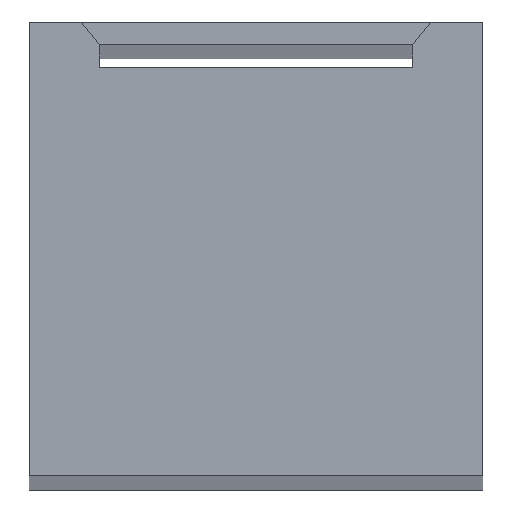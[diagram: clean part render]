
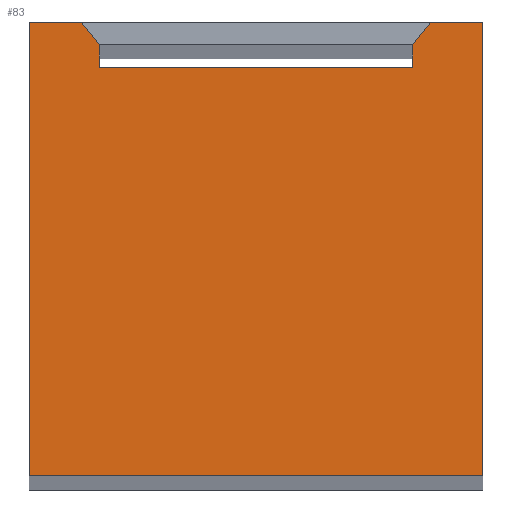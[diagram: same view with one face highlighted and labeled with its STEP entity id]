
A CAD part, top view. The second image highlights one B-rep face of the part: STEP entity #83.
In plain terms, the highlighted planar face has unit normal (0, 0, 1).
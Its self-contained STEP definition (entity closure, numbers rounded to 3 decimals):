
#6 = ORIENTED_EDGE ( 'NONE', *, *, #235, .F. ) ;
#16 = CARTESIAN_POINT ( 'NONE',  ( 6.9, 9., 180. ) ) ;
#17 = EDGE_CURVE ( 'NONE', #477, #407, #507, .T. ) ;
#29 = VECTOR ( 'NONE', #638, 1000. ) ;
#31 = LINE ( 'NONE', #368, #189 ) ;
#41 = CARTESIAN_POINT ( 'NONE',  ( 0., 0., 180. ) ) ;
#51 = LINE ( 'NONE', #437, #530 ) ;
#66 = CARTESIAN_POINT ( 'NONE',  ( 10., -10., 180. ) ) ;
#68 = CARTESIAN_POINT ( 'NONE',  ( 7.7, 10., 180. ) ) ;
#69 = ORIENTED_EDGE ( 'NONE', *, *, #128, .T. ) ;
#71 = EDGE_LOOP ( 'NONE', ( #524, #198, #222, #69, #352, #628, #568, #126, #6, #485 ) ) ;
#74 = DIRECTION ( 'NONE',  ( 1., 0., 0. ) ) ;
#82 = LINE ( 'NONE', #262, #102 ) ;
#83 = ADVANCED_FACE ( 'NONE', ( #260 ), #199, .T. ) ;
#96 = EDGE_CURVE ( 'NONE', #611, #150, #106, .T. ) ;
#102 = VECTOR ( 'NONE', #108, 1000. ) ;
#106 = LINE ( 'NONE', #380, #597 ) ;
#108 = DIRECTION ( 'NONE',  ( -1., 0., 0. ) ) ;
#112 = LINE ( 'NONE', #336, #367 ) ;
#126 = ORIENTED_EDGE ( 'NONE', *, *, #527, .F. ) ;
#128 = EDGE_CURVE ( 'NONE', #407, #179, #112, .T. ) ;
#145 = DIRECTION ( 'NONE',  ( 1., 0., 0. ) ) ;
#147 = VECTOR ( 'NONE', #447, 1000. ) ;
#150 = VERTEX_POINT ( 'NONE', #377 ) ;
#163 = CARTESIAN_POINT ( 'NONE',  ( 7.7, 10., 180. ) ) ;
#179 = VERTEX_POINT ( 'NONE', #474 ) ;
#189 = VECTOR ( 'NONE', #519, 1000. ) ;
#195 = DIRECTION ( 'NONE',  ( 0., 1., 0. ) ) ;
#198 = ORIENTED_EDGE ( 'NONE', *, *, #566, .T. ) ;
#199 = PLANE ( 'NONE',  #551 ) ;
#210 = CARTESIAN_POINT ( 'NONE',  ( -10., 10., 180. ) ) ;
#221 = EDGE_CURVE ( 'NONE', #523, #338, #374, .T. ) ;
#222 = ORIENTED_EDGE ( 'NONE', *, *, #17, .T. ) ;
#225 = DIRECTION ( 'NONE',  ( -0.625, -0.781, 0. ) ) ;
#235 = EDGE_CURVE ( 'NONE', #338, #371, #31, .T. ) ;
#256 = CARTESIAN_POINT ( 'NONE',  ( 6.9, 9., 180. ) ) ;
#260 = FACE_OUTER_BOUND ( 'NONE', #71, .T. ) ;
#262 = CARTESIAN_POINT ( 'NONE',  ( -10., -10., 180. ) ) ;
#269 = VECTOR ( 'NONE', #225, 1000. ) ;
#273 = CARTESIAN_POINT ( 'NONE',  ( -6.9, 8., 180. ) ) ;
#278 = LINE ( 'NONE', #68, #269 ) ;
#281 = CARTESIAN_POINT ( 'NONE',  ( -10., 10., 180. ) ) ;
#295 = VERTEX_POINT ( 'NONE', #16 ) ;
#302 = DIRECTION ( 'NONE',  ( -0.625, 0.781, 0. ) ) ;
#308 = VERTEX_POINT ( 'NONE', #559 ) ;
#318 = CARTESIAN_POINT ( 'NONE',  ( 10., 10., 180. ) ) ;
#328 = DIRECTION ( 'NONE',  ( -1., 0., 0. ) ) ;
#336 = CARTESIAN_POINT ( 'NONE',  ( -6.9, 9., 180. ) ) ;
#338 = VERTEX_POINT ( 'NONE', #318 ) ;
#342 = CARTESIAN_POINT ( 'NONE',  ( -10., 10., 180. ) ) ;
#352 = ORIENTED_EDGE ( 'NONE', *, *, #634, .T. ) ;
#367 = VECTOR ( 'NONE', #195, 1000. ) ;
#368 = CARTESIAN_POINT ( 'NONE',  ( 10., 10., 180. ) ) ;
#371 = VERTEX_POINT ( 'NONE', #66 ) ;
#374 = LINE ( 'NONE', #281, #542 ) ;
#377 = CARTESIAN_POINT ( 'NONE',  ( -7.7, 10., 180. ) ) ;
#380 = CARTESIAN_POINT ( 'NONE',  ( -10., 10., 180. ) ) ;
#390 = VECTOR ( 'NONE', #328, 1000. ) ;
#407 = VERTEX_POINT ( 'NONE', #273 ) ;
#420 = LINE ( 'NONE', #210, #29 ) ;
#432 = DIRECTION ( 'NONE',  ( 1., 0., 0. ) ) ;
#437 = CARTESIAN_POINT ( 'NONE',  ( -7.7, 10., 180. ) ) ;
#447 = DIRECTION ( 'NONE',  ( 0., -1., 0. ) ) ;
#458 = EDGE_CURVE ( 'NONE', #523, #295, #278, .T. ) ;
#467 = CARTESIAN_POINT ( 'NONE',  ( -6.9, 8., 180. ) ) ;
#474 = CARTESIAN_POINT ( 'NONE',  ( -6.9, 9., 180. ) ) ;
#477 = VERTEX_POINT ( 'NONE', #494 ) ;
#481 = DIRECTION ( 'NONE',  ( 0., 0., 1. ) ) ;
#485 = ORIENTED_EDGE ( 'NONE', *, *, #221, .F. ) ;
#494 = CARTESIAN_POINT ( 'NONE',  ( 6.9, 8., 180. ) ) ;
#507 = LINE ( 'NONE', #467, #390 ) ;
#514 = LINE ( 'NONE', #256, #147 ) ;
#519 = DIRECTION ( 'NONE',  ( 0., -1., 0. ) ) ;
#523 = VERTEX_POINT ( 'NONE', #163 ) ;
#524 = ORIENTED_EDGE ( 'NONE', *, *, #458, .T. ) ;
#527 = EDGE_CURVE ( 'NONE', #371, #308, #82, .T. ) ;
#530 = VECTOR ( 'NONE', #302, 1000. ) ;
#533 = EDGE_CURVE ( 'NONE', #308, #611, #420, .T. ) ;
#542 = VECTOR ( 'NONE', #74, 1000. ) ;
#551 = AXIS2_PLACEMENT_3D ( 'NONE', #41, #481, #145 ) ;
#559 = CARTESIAN_POINT ( 'NONE',  ( -10., -10., 180. ) ) ;
#566 = EDGE_CURVE ( 'NONE', #295, #477, #514, .T. ) ;
#568 = ORIENTED_EDGE ( 'NONE', *, *, #533, .F. ) ;
#597 = VECTOR ( 'NONE', #432, 1000. ) ;
#611 = VERTEX_POINT ( 'NONE', #342 ) ;
#628 = ORIENTED_EDGE ( 'NONE', *, *, #96, .F. ) ;
#634 = EDGE_CURVE ( 'NONE', #179, #150, #51, .T. ) ;
#638 = DIRECTION ( 'NONE',  ( 0., 1., 0. ) ) ;
